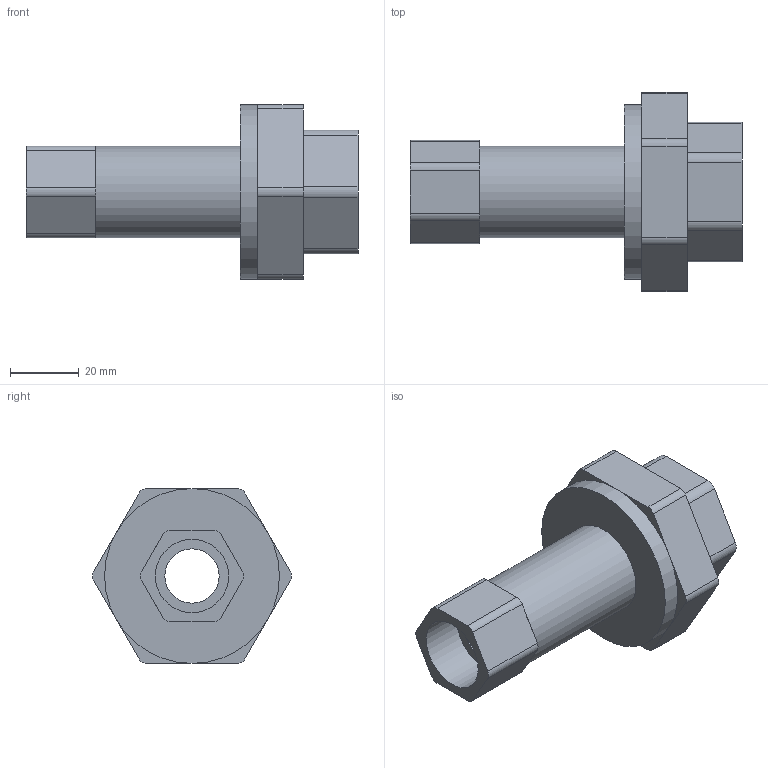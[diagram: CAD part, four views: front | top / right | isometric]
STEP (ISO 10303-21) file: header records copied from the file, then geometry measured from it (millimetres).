
FILE_DESCRIPTION(/* description */ ('VIC VALVE BALANCING LOW LEAD TA SERIES 76X (FPT)-POTABLE WATER'),/* implementation_level */ '2;1');
FILE_NAME(/* name */ 'C:\Files for Export\76X\Victaulic_IPS-HB_Valve ICSS-Low Lead Balancing POTW_TA Series 76X (FPT)\Victaulic_IPS-HB_Valve ICSS-Low Lead Balancing POTW_TA Series 76X (FPT)_0.5 (15).stp',/* time_stamp */ '2024-03-08T10:53:59+01:00',/* author */ ('Vjadhav'),/* organization */ ('Victaulic'),/* preprocessor_version */ 'ST-DEVELOPER v18.1',/* originating_system */ 'Autodesk Inventor 2020',/* authorisation */ '');
FILE_SCHEMA (('AUTOMOTIVE_DESIGN { 1 0 10303 214 3 1 1 }'));
Length unit declared in the file: inch
Products named in the file (1): 76X-0.5
Bounding box: 96.52 x 57.87 x 50.8 mm (x, y, z)
Volume: 70746.6 mm3; surface area: 19857.4 mm2
Topology: 1 solids, 1 shells, 59 faces, 152 edges, 99 vertices
Faces by surface type: plane 36, cylinder 23
Full cylindrical faces by diameter (mm): 15.799 x1, 21.336 x2, 26.67 x1, 50.8 x1
Entity records: 1919 total; most frequent: DIRECTION 335, CARTESIAN_POINT 311, ORIENTED_EDGE 304, EDGE_CURVE 152, AXIS2_PLACEMENT_3D 123, VERTEX_POINT 99, LINE 89, VECTOR 89
